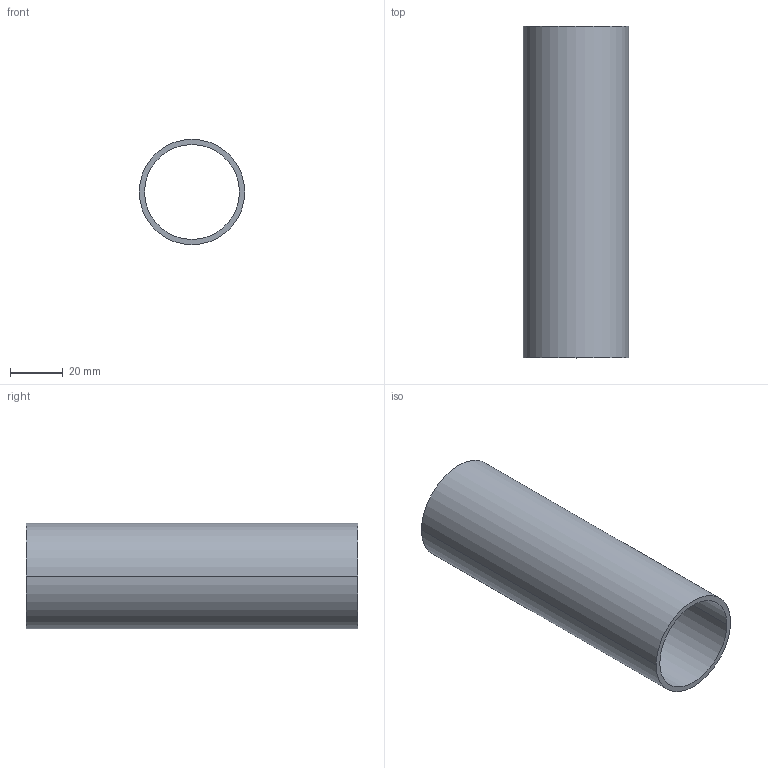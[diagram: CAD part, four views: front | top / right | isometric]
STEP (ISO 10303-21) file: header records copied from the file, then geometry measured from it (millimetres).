
FILE_DESCRIPTION((''),'2;1');
FILE_NAME('0002','2024-07-02T15:20:51',('qinghui.yi'),(''),'CREO PARAMETRIC BY PTC INC, 2019164','CREO PARAMETRIC BY PTC INC, 2019164','');
FILE_SCHEMA(('CONFIG_CONTROL_DESIGN','SHAPE_APPEARANCE_LAYERS_GROUPS'));
Length unit declared in the file: millimetre
Products named in the file (1): 0002
Bounding box: 40 x 126 x 40 mm (x, y, z)
Volume: 30083.9 mm3; surface area: 30561.4 mm2
Topology: 1 solids, 1 shells, 6 faces, 15 edges, 14 vertices
Faces by surface type: cylinder 4, plane 2
Entity records: 567 total; most frequent: COLOUR_RGB 312, DIRECTION 37, CARTESIAN_POINT 30, ORIENTED_EDGE 24, AXIS2_PLACEMENT_3D 15, EDGE_CURVE 12, VERTEX_POINT 8, EDGE_LOOP 8
